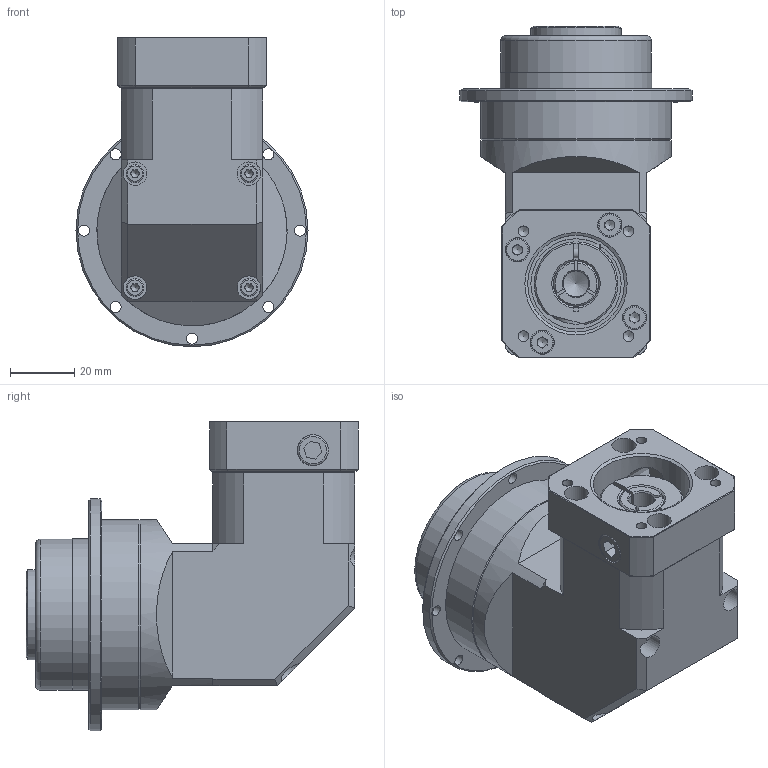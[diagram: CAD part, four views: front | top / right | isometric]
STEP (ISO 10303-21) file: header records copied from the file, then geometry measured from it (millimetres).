
FILE_DESCRIPTION((''),'2;1');
FILE_NAME('C:\Work\감속기 카다로그 도면\ATG Reducer(홈페이지)\KSDL\KSDL-47-1.stp','2014-07-04T11:13:36',('young'),(''),'Autodesk Inventor 2012','Autodesk Inventor 2012','');
FILE_SCHEMA(('AUTOMOTIVE_DESIGN { 1 0 10303 214 1 1 1 1 }'));
Length unit declared in the file: millimetre
Products named in the file (1): KSDL-47-1
Bounding box: 72 x 103 x 96 mm (x, y, z)
Volume: 181466.8 mm3; surface area: 76957.4 mm2
Topology: 17 solids, 17 shells, 717 faces, 1878 edges, 1233 vertices
Faces by surface type: plane 289, cone 207, cylinder 186, bspline 18, torus 17
Full cylindrical faces by diameter (mm): 1 x1, 3 x10, 3.3 x12, 3.4 x8, 3.5 x4, 3.83 x6, 4 x48, 4.5 x8, 5.5 x5, 7 x4, 7.3 x4, 7.5 x4, 8 x1, 8.5 x1, 9.5 x2, 10 x1, 11 x1, 12 x1, 14.2 x1, 14.8 x1, 15.5 x1, 25 x1, 28 x3, 29 x1, 30 x3, 31.96 x1, 32 x3, 34 x2, 37 x1, 39 x1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
Entity records: 30491 total; most frequent: CARTESIAN_POINT 15427, DIRECTION 3153, ORIENTED_EDGE 2646, AXIS2_PLACEMENT_3D 1336, EDGE_CURVE 1323, EDGE_LOOP 1154, VERTEX_POINT 1017, FACE_OUTER_BOUND 717
